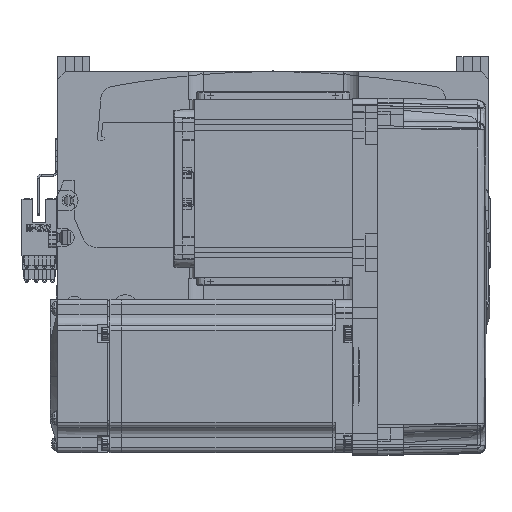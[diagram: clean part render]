
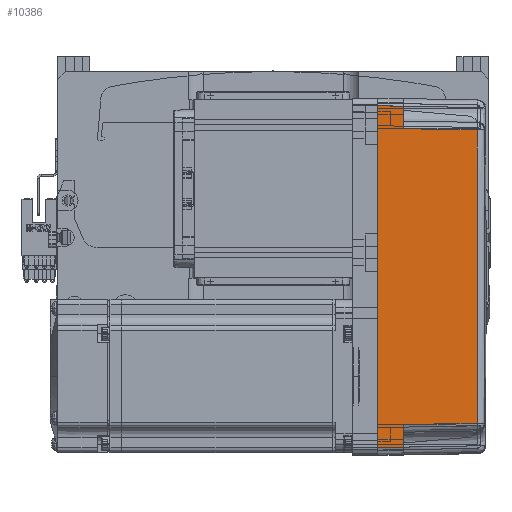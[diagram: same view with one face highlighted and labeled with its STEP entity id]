
A CAD part, top view. The second image highlights one B-rep face of the part: STEP entity #10386.
In plain terms, the highlighted planar face has unit normal (0.018, 0, 1) as drawn and (0, 1, 0.017) by its records, which use the part's own axes.
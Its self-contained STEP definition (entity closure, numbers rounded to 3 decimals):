
#1484 = VECTOR ( 'NONE', #18628, 1000. ) ;
#3254 = VECTOR ( 'NONE', #60026, 1000. ) ;
#4269 = CARTESIAN_POINT ( 'NONE',  ( 57.495, 35.32, 38.985 ) ) ;
#6812 = EDGE_LOOP ( 'NONE', ( #12348, #61412, #27850, #71646, #63616, #17956, #45016, #58688 ) ) ;
#6837 = DIRECTION ( 'NONE',  ( 1., 0., 0. ) ) ;
#9463 = CARTESIAN_POINT ( 'NONE',  ( 70., 36., 0. ) ) ;
#10227 = VECTOR ( 'NONE', #6837, 1000. ) ;
#10386 = ADVANCED_FACE ( 'NONE', ( #71078 ), #58119, .T. ) ;
#10958 = DIRECTION ( 'NONE',  ( 1., 0., 0. ) ) ;
#11005 = VERTEX_POINT ( 'NONE', #71258 ) ;
#12348 = ORIENTED_EDGE ( 'NONE', *, *, #37002, .T. ) ;
#12495 = EDGE_CURVE ( 'NONE', #27247, #36800, #27816, .T. ) ;
#14616 = LINE ( 'NONE', #37317, #3254 ) ;
#16483 = B_SPLINE_CURVE_WITH_KNOTS ( 'NONE', 3,
 ( #28414, #28904, #67042, #45217 ),
 .UNSPECIFIED., .F., .F.,
 ( 4, 4 ),
 ( 0., 1. ),
 .UNSPECIFIED. ) ;
#17517 = LINE ( 'NONE', #4269, #41936 ) ;
#17956 = ORIENTED_EDGE ( 'NONE', *, *, #33942, .T. ) ;
#18468 = VECTOR ( 'NONE', #69781, 1000. ) ;
#18628 = DIRECTION ( 'NONE',  ( 0.017, -0.017, 1. ) ) ;
#19656 = CARTESIAN_POINT ( 'NONE',  ( -67., 36., 0. ) ) ;
#21099 = DIRECTION ( 'NONE',  ( 0.017, 0.017, -1. ) ) ;
#21405 = CARTESIAN_POINT ( 'NONE',  ( 57.495, 35.32, 38.985 ) ) ;
#21435 = VERTEX_POINT ( 'NONE', #21405 ) ;
#24307 = EDGE_CURVE ( 'NONE', #33834, #67633, #69700, .T. ) ;
#24866 = CARTESIAN_POINT ( 'NONE',  ( -67., 36., 0. ) ) ;
#25432 = VERTEX_POINT ( 'NONE', #25805 ) ;
#25563 = DIRECTION ( 'NONE',  ( 0., -0.017, 1. ) ) ;
#25805 = CARTESIAN_POINT ( 'NONE',  ( -57.495, 35.32, 38.985 ) ) ;
#27247 = VERTEX_POINT ( 'NONE', #58391 ) ;
#27816 = LINE ( 'NONE', #44168, #37407 ) ;
#27850 = ORIENTED_EDGE ( 'NONE', *, *, #55807, .T. ) ;
#28414 = CARTESIAN_POINT ( 'NONE',  ( -57.495, 35.32, 38.985 ) ) ;
#28904 = CARTESIAN_POINT ( 'NONE',  ( -19.165, 35.316, 39.181 ) ) ;
#31252 = DIRECTION ( 'NONE',  ( -0.017, -0.017, 1. ) ) ;
#33342 = LINE ( 'NONE', #19656, #18468 ) ;
#33834 = VERTEX_POINT ( 'NONE', #24866 ) ;
#33942 = EDGE_CURVE ( 'NONE', #11005, #68269, #14616, .T. ) ;
#34112 = CARTESIAN_POINT ( 'NONE',  ( -58., 35.825, 10. ) ) ;
#34875 = CARTESIAN_POINT ( 'NONE',  ( 67., 36., 0. ) ) ;
#35933 = CARTESIAN_POINT ( 'NONE',  ( -58., 35.825, 10. ) ) ;
#36800 = VERTEX_POINT ( 'NONE', #34112 ) ;
#37002 = EDGE_CURVE ( 'NONE', #33834, #27247, #33342, .T. ) ;
#37287 = DIRECTION ( 'NONE',  ( 0., 1., 0.017 ) ) ;
#37317 = CARTESIAN_POINT ( 'NONE',  ( 70., 35.825, 10. ) ) ;
#37407 = VECTOR ( 'NONE', #10958, 1000. ) ;
#37426 = CARTESIAN_POINT ( 'NONE',  ( 66.826, 35.825, 10. ) ) ;
#41936 = VECTOR ( 'NONE', #21099, 1000. ) ;
#42465 = EDGE_CURVE ( 'NONE', #25432, #21435, #16483, .T. ) ;
#43144 = AXIS2_PLACEMENT_3D ( 'NONE', #9463, #37287, #25563 ) ;
#44168 = CARTESIAN_POINT ( 'NONE',  ( 70., 35.825, 10. ) ) ;
#45016 = ORIENTED_EDGE ( 'NONE', *, *, #65876, .F. ) ;
#45217 = CARTESIAN_POINT ( 'NONE',  ( 57.495, 35.32, 38.985 ) ) ;
#46009 = EDGE_CURVE ( 'NONE', #21435, #11005, #17517, .T. ) ;
#48555 = CARTESIAN_POINT ( 'NONE',  ( 67.001, 36.001, -0.052 ) ) ;
#55807 = EDGE_CURVE ( 'NONE', #36800, #25432, #60852, .T. ) ;
#57374 = CARTESIAN_POINT ( 'NONE',  ( 0., 36., 0. ) ) ;
#58119 = PLANE ( 'NONE',  #43144 ) ;
#58391 = CARTESIAN_POINT ( 'NONE',  ( -66.826, 35.825, 10. ) ) ;
#58653 = LINE ( 'NONE', #48555, #62147 ) ;
#58688 = ORIENTED_EDGE ( 'NONE', *, *, #24307, .F. ) ;
#60026 = DIRECTION ( 'NONE',  ( 1., 0., 0. ) ) ;
#60852 = LINE ( 'NONE', #35933, #1484 ) ;
#61412 = ORIENTED_EDGE ( 'NONE', *, *, #12495, .T. ) ;
#62147 = VECTOR ( 'NONE', #31252, 1000. ) ;
#63616 = ORIENTED_EDGE ( 'NONE', *, *, #46009, .T. ) ;
#65876 = EDGE_CURVE ( 'NONE', #67633, #68269, #58653, .T. ) ;
#67042 = CARTESIAN_POINT ( 'NONE',  ( 19.165, 35.316, 39.181 ) ) ;
#67633 = VERTEX_POINT ( 'NONE', #34875 ) ;
#68269 = VERTEX_POINT ( 'NONE', #37426 ) ;
#69700 = LINE ( 'NONE', #57374, #10227 ) ;
#69781 = DIRECTION ( 'NONE',  ( 0.017, -0.017, 1. ) ) ;
#71078 = FACE_OUTER_BOUND ( 'NONE', #6812, .T. ) ;
#71258 = CARTESIAN_POINT ( 'NONE',  ( 58., 35.825, 10. ) ) ;
#71646 = ORIENTED_EDGE ( 'NONE', *, *, #42465, .T. ) ;
